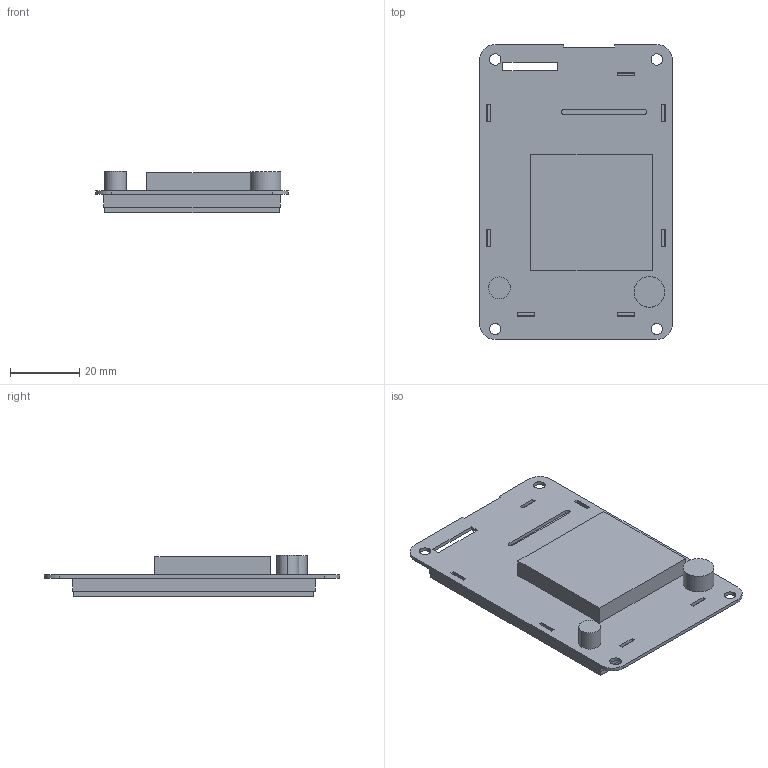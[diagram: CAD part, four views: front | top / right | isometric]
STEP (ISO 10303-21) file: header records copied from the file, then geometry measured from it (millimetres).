
FILE_DESCRIPTION((''),'2;1');
FILE_NAME('DMG32240C028-03WN_-03WTR','2019-08-19T',('Administrator'),(''),'PRO/ENGINEER BY PARAMETRIC TECHNOLOGY CORPORATION, 2008380','PRO/ENGINEER BY PARAMETRIC TECHNOLOGY CORPORATION, 2008380','');
FILE_SCHEMA(('CONFIG_CONTROL_DESIGN'));
Length unit declared in the file: millimetre
Products named in the file (1): DMG32240C028-03WN_-03WTR
Bounding box: 55.63 x 85.22 x 12 mm (x, y, z)
Volume: 28914.2 mm3; surface area: 17367.2 mm2
Topology: 1 solids, 2 shells, 93 faces, 6313 edges, 10185 vertices
Faces by surface type: plane 75, cylinder 18
Entity records: 35416 total; most frequent: DIRECTION 8651, CARTESIAN_POINT 6573, TRIMMED_CURVE 6057, VECTOR 4163, LINE 4163, AXIS2_PLACEMENT_3D 2244, CIRCLE 2150, ORIENTED_EDGE 512
